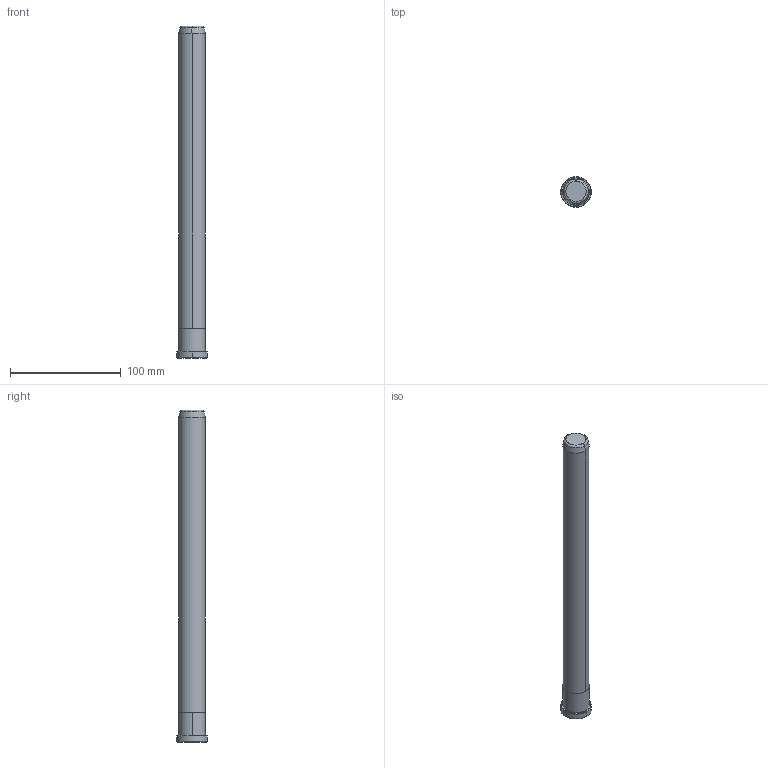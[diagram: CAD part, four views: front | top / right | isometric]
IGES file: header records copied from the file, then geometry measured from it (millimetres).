
Start section: START RECORD GO HERE.
Global section: file name: B82824300.igs; native system: DASSAULT SYSTEMES CATIA V5 R20 - www.3ds.com; preprocessor: CATIA Version 5 Release 20 ; author: Utente; organization: NB04-ASUS; date: 20200419.173400; units: millimetre
Bounding box: 28 x 28 x 300 mm (x, y, z)
Surface area: 23728.3 mm2 (no closed solid volume)
Topology: 0 solids, 0 shells, 20 faces, 80 edges, 80 vertices
Faces by surface type: revolution 16, plane 4
